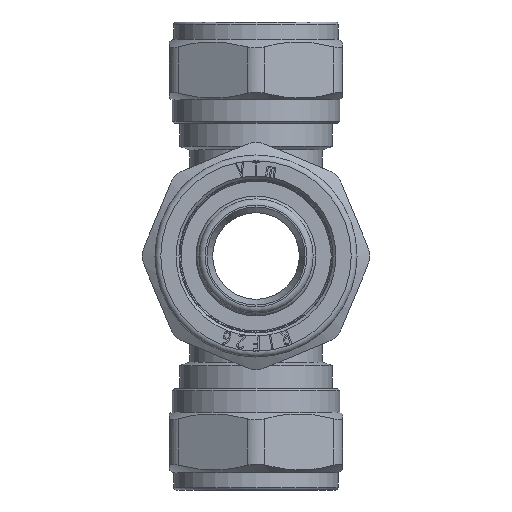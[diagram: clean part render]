
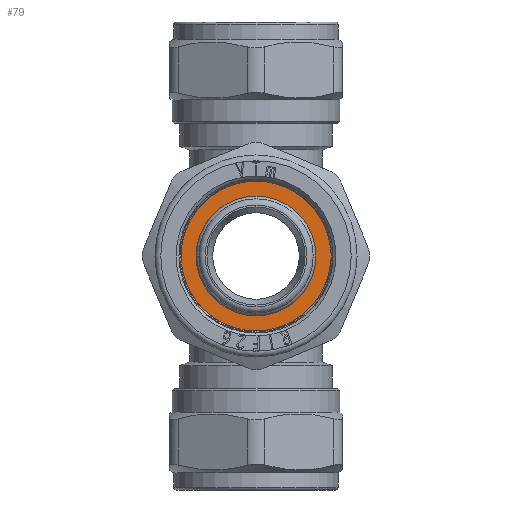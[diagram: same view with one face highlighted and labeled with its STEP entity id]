
A CAD part, front view. The second image highlights one B-rep face of the part: STEP entity #79.
In plain terms, the highlighted planar face has unit normal (0, -1, 0).
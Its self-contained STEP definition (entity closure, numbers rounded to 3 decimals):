
#79=ADVANCED_FACE('',(#1634,#1636),#1638,.T.);
#1634=FACE_BOUND('',#1635,.T.);
#1635=EDGE_LOOP('',(#11161));
#1636=FACE_BOUND('',#1637,.T.);
#1637=EDGE_LOOP('',(#11162));
#1638=PLANE('',#1639);
#1639=AXIS2_PLACEMENT_3D('',#1640,#1641,#1642);
#1640=CARTESIAN_POINT('',(0.,-22.9,0.));
#1641=DIRECTION('',(0.,-1.,0.));
#1642=DIRECTION('',(-1.,0.,0.));
#11161=ORIENTED_EDGE('',*,*,#19819,.T.);
#11162=ORIENTED_EDGE('',*,*,#19871,.T.);
#19819=EDGE_CURVE('',#23356,#23356,#23357,.F.);
#19871=EDGE_CURVE('',#23458,#23458,#23459,.F.);
#23356=VERTEX_POINT('',#29369);
#23357=CIRCLE('',#29370,13.1);
#23458=VERTEX_POINT('',#29678);
#23459=CIRCLE('',#29679,10.);
#29369=CARTESIAN_POINT('',(-13.1,-22.9,0.));
#29370=AXIS2_PLACEMENT_3D('',#29371,#29372,#29373);
#29371=CARTESIAN_POINT('',(0.,-22.9,0.));
#29372=DIRECTION('',(0.,1.,0.));
#29373=DIRECTION('',(-1.,0.,0.));
#29678=CARTESIAN_POINT('',(-10.,-22.9,0.));
#29679=AXIS2_PLACEMENT_3D('',#29680,#29681,#29682);
#29680=CARTESIAN_POINT('',(0.,-22.9,0.));
#29681=DIRECTION('',(0.,-1.,0.));
#29682=DIRECTION('',(-1.,0.,0.));
